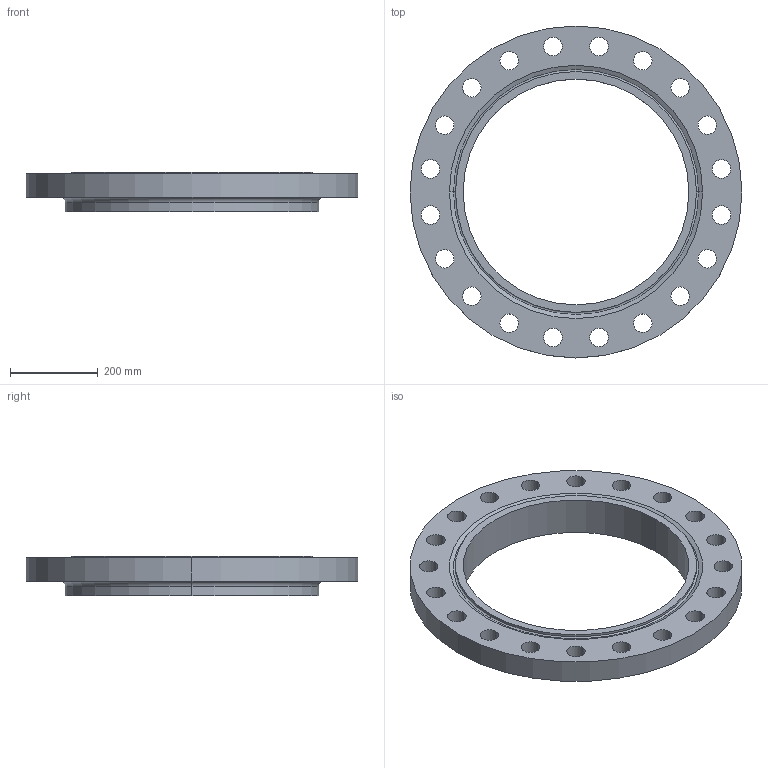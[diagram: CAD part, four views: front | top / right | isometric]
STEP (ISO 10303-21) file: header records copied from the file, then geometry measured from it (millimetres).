
FILE_DESCRIPTION (( 'STEP AP214' ), '1' );
FILE_NAME ('PN40 DN500 Type 12 - Type H Face.STEP', '2018-12-29T01:23:27', ( '' ), ( '' ), 'SwSTEP 2.0', 'SolidWorks 2019', '' );
FILE_SCHEMA (( 'AUTOMOTIVE_DESIGN' ));
Length unit declared in the file: millimetre
Products named in the file (1): PN40 DN500 Type 12 - Type H Face
Bounding box: 755 x 755 x 90 mm (x, y, z)
Volume: 13327957.8 mm3; surface area: 905526.8 mm2
Topology: 1 solids, 1 shells, 58 faces, 156 edges, 102 vertices
Faces by surface type: cylinder 48, torus 4, plane 4, cone 2
Entity records: 1996 total; most frequent: DIRECTION 380, CARTESIAN_POINT 317, ORIENTED_EDGE 312, AXIS2_PLACEMENT_3D 165, EDGE_CURVE 156, CIRCLE 106, EDGE_LOOP 102, VERTEX_POINT 102
